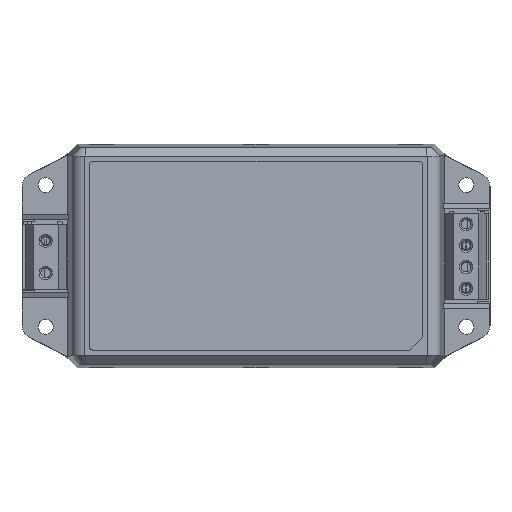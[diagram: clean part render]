
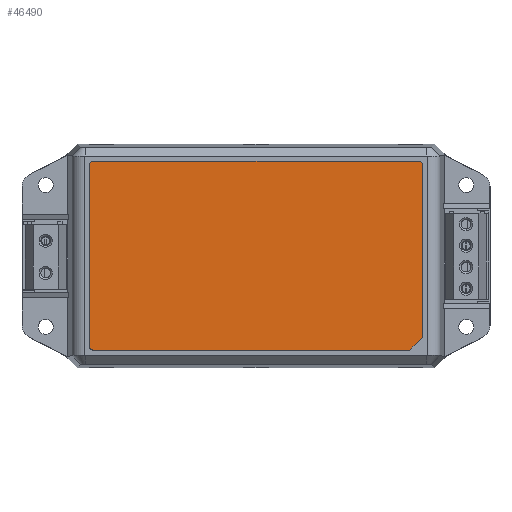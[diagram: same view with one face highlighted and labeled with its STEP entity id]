
A CAD part, top view. The second image highlights one B-rep face of the part: STEP entity #46490.
In plain terms, the highlighted planar face has unit normal (0, 0, 1).
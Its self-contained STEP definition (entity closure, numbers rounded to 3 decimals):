
#44970=CARTESIAN_POINT('',(6.683,51.553,11.3));
#44980=DIRECTION('',(1.,0.,0.));
#44990=VECTOR('',#44980,1.);
#45000=LINE('',#44970,#44990);
#45010=CARTESIAN_POINT('',(7.683,51.553,11.3));
#45020=VERTEX_POINT('',#45010);
#45030=CARTESIAN_POINT('',(83.293,51.553,11.3));
#45040=VERTEX_POINT('',#45030);
#45050=EDGE_CURVE('',#45020,#45040,#45000,.T.);
#45280=CARTESIAN_POINT('',(84.293,51.553,11.3));
#45290=DIRECTION('',(0.,-1.,0.));
#45300=VECTOR('',#45290,1.);
#45310=LINE('',#45280,#45300);
#45320=CARTESIAN_POINT('',(84.293,50.553,11.3));
#45330=VERTEX_POINT('',#45320);
#45340=CARTESIAN_POINT('',(84.293,10.553,11.3));
#45350=VERTEX_POINT('',#45340);
#45360=EDGE_CURVE('',#45330,#45350,#45310,.T.);
#45640=CARTESIAN_POINT('',(7.683,7.553,11.3));
#45650=VERTEX_POINT('',#45640);
#45680=CARTESIAN_POINT('',(84.293,7.553,11.3));
#45690=DIRECTION('',(-1.,0.,0.));
#45700=VECTOR('',#45690,1.);
#45710=LINE('',#45680,#45700);
#45720=CARTESIAN_POINT('',(81.293,7.553,11.3));
#45730=VERTEX_POINT('',#45720);
#45740=EDGE_CURVE('',#45730,#45650,#45710,.T.);
#45900=CARTESIAN_POINT('',(7.683,8.553,11.3));
#45910=DIRECTION('',(0.,0.,-1.));
#45920=DIRECTION('',(-1.,0.,0.));
#45930=AXIS2_PLACEMENT_3D('',#45900,#45910,#45920);
#45940=CIRCLE('',#45930,1.);
#45950=CARTESIAN_POINT('',(6.683,8.553,11.3));
#45960=VERTEX_POINT('',#45950);
#45970=EDGE_CURVE('',#45650,#45960,#45940,.T.);
#46100=CARTESIAN_POINT('',(31.821,31.526,11.3));
#46110=DIRECTION('',(0.,0.,1.));
#46120=DIRECTION('',(1.,0.,0.));
#46130=AXIS2_PLACEMENT_3D('',#46100,#46110,#46120);
#46140=PLANE('',#46130);
#46150=CARTESIAN_POINT('',(83.293,50.553,11.3));
#46160=DIRECTION('',(0.,0.,-1.));
#46170=DIRECTION('',(-1.,0.,0.));
#46180=AXIS2_PLACEMENT_3D('',#46150,#46160,#46170);
#46190=CIRCLE('',#46180,1.);
#46200=EDGE_CURVE('',#45040,#45330,#46190,.T.);
#46210=ORIENTED_EDGE('',*,*,#46200,.F.);
#46220=ORIENTED_EDGE('',*,*,#45360,.F.);
#46230=CARTESIAN_POINT('',(78.406,4.667,11.3));
#46240=DIRECTION('',(-0.707,-0.707,0.));
#46250=VECTOR('',#46240,1.);
#46260=LINE('',#46230,#46250);
#46270=EDGE_CURVE('',#45350,#45730,#46260,.T.);
#46280=ORIENTED_EDGE('',*,*,#46270,.F.);
#46290=ORIENTED_EDGE('',*,*,#45740,.F.);
#46300=ORIENTED_EDGE('',*,*,#45970,.F.);
#46310=CARTESIAN_POINT('',(6.683,7.553,11.3));
#46320=DIRECTION('',(0.,1.,0.));
#46330=VECTOR('',#46320,1.);
#46340=LINE('',#46310,#46330);
#46350=CARTESIAN_POINT('',(6.683,50.553,11.3));
#46360=VERTEX_POINT('',#46350);
#46370=EDGE_CURVE('',#45960,#46360,#46340,.T.);
#46380=ORIENTED_EDGE('',*,*,#46370,.F.);
#46390=CARTESIAN_POINT('',(7.683,50.553,11.3));
#46400=DIRECTION('',(0.,0.,-1.));
#46410=DIRECTION('',(-1.,0.,0.));
#46420=AXIS2_PLACEMENT_3D('',#46390,#46400,#46410);
#46430=CIRCLE('',#46420,1.);
#46440=EDGE_CURVE('',#46360,#45020,#46430,.T.);
#46450=ORIENTED_EDGE('',*,*,#46440,.F.);
#46460=ORIENTED_EDGE('',*,*,#45050,.F.);
#46470=EDGE_LOOP('',(#46460,#46450,#46380,#46300,#46290,#46280,#46220,
#46210));
#46480=FACE_OUTER_BOUND('',#46470,.T.);
#46490=ADVANCED_FACE('',(#46480),#46140,.T.);
